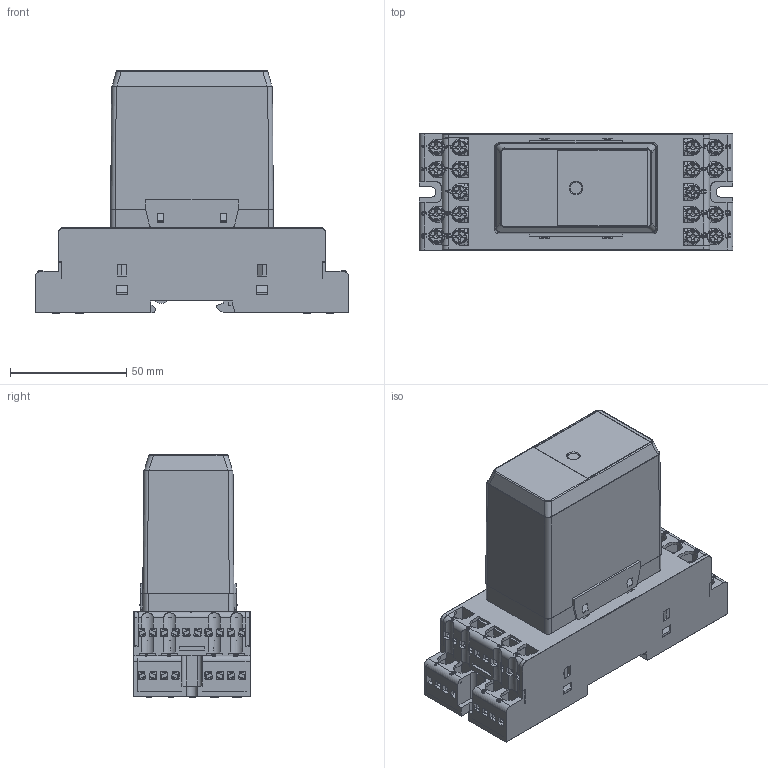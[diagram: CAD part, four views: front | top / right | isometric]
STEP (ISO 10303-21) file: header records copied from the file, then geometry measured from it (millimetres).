
FILE_DESCRIPTION(('STEP AP214'), '1');
FILE_NAME('Ðåëå ÐÝÏ36Ì,37Ì,38ÌÄ (3D çàêàç÷èêàì)', '2023-10-17T14:00:52', (''), (''), 'ASCON STEP Converter 1.6', 'ASCON Math Kernel', '');
FILE_SCHEMA(('AUTOMOTIVE_DESIGN { 1 0 10303 214 3 1 1}'));
Length unit declared in the file: millimetre
Products named in the file (1): 襠窏.647115.060 捘
Bounding box: 135 x 50 x 104.2 mm (x, y, z)
Volume: 354527 mm3; surface area: 79123.3 mm2
Topology: 1 solids, 23 shells, 7526 faces, 22297 edges, 14585 vertices
Faces by surface type: plane 4721, cylinder 2214, bspline 280, extrusion 144, cone 109, torus 58
Full cylindrical faces by diameter (mm): 2.45 x36, 3.5 x36
Entity records: 753084 total; most frequent: CARTESIAN_POINT 499372, ORIENTED_EDGE 43886, DIRECTION 35941, EDGE_CURVE 22152, VERTEX_POINT 14571, VECTOR 14507, LINE 14363, AXIS2_PLACEMENT_3D 10717
